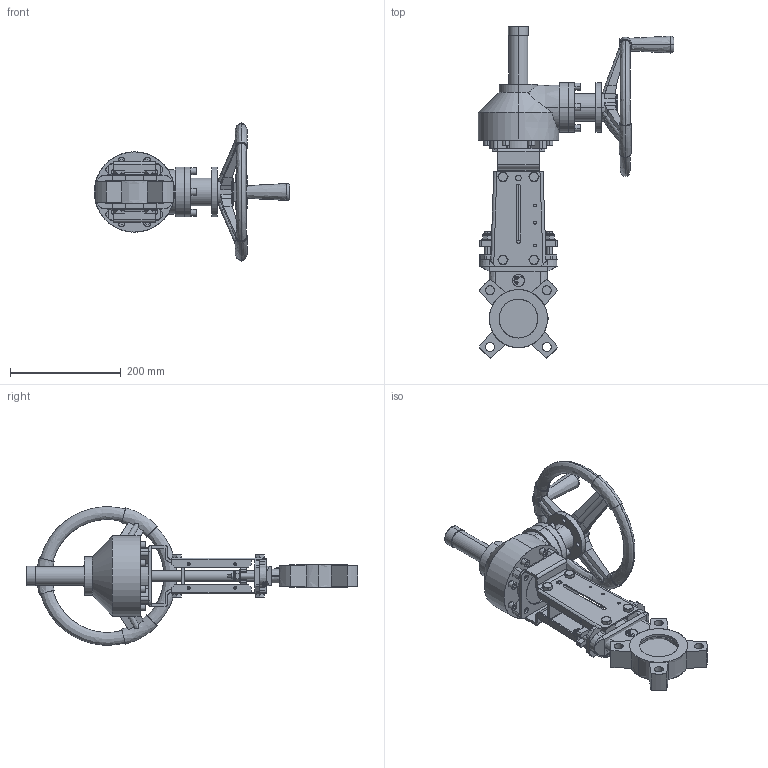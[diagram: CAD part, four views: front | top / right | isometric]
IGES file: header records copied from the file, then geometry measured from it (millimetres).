
Start section: SolidWorks IGES file using analytic representation for surfaces
Global section: file name: D:\part\3D Projects\VG-GEAR BOX ACTUATOR(DN50-DN6000\VG G DN65\VG G DN65.IGS; native system: SolidWorks 2009; preprocessor: SolidWorks 2009; author: zhixin.zheng; date: 100422.171609; units: millimetre
Bounding box: 353 x 599.47 x 249.71 mm (x, y, z)
Surface area: 496957.5 mm2 (no closed solid volume)
Topology: 0 solids, 0 shells, 988 faces, 10973 edges, 10969 vertices
Faces by surface type: bspline 576, revolution 412
